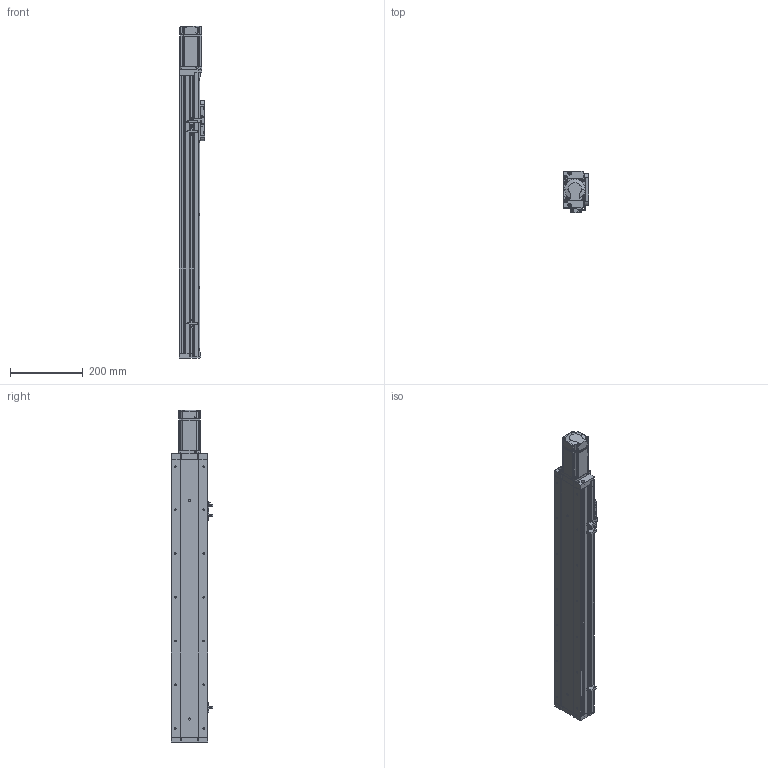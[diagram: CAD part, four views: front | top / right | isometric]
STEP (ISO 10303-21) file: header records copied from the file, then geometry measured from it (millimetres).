
FILE_DESCRIPTION (( 'STEP AP214' ), '1' );
FILE_NAME ('KSD100S-S550-MN-CR.STEP', '2019-09-02T09:19:50', ( '微软用户' ), ( '微软中国' ), 'SwSTEP 2.0', 'SolidWorks 2014', '' );
FILE_SCHEMA (( 'AUTOMOTIVE_DESIGN' ));
Length unit declared in the file: millimetre
Products named in the file (12): 100宽马达安装板全封闭不带电机座; 100宽端板全封闭; 100宽滚珠螺姆安装板1防护罩; 100宽滚珠螺姆安装板1; 100宽盖板压板不带电机座; 100宽盖板550行程不带电机座; 100宽侧板550行程不带电机座; 100宽底板全封闭550行程不带电机座; KSD100S-S550-MN-CR; MHMD042G1CA_2_03; U倰嫖萇EEㄜSX672; 感应片100宽全封闭
Assembly tree (15 placements, depth 2):
  KSD100S-S550-MN-CR
    100宽底板全封闭550行程不带电机座
    100宽侧板550行程不带电机座  x2
    100宽盖板550行程不带电机座
    100宽盖板压板不带电机座  x2
    100宽滚珠螺姆安装板1
    100宽滚珠螺姆安装板1防护罩
    100宽端板全封闭
    100宽马达安装板全封闭不带电机座
    感应片100宽全封闭
    U倰嫖萇EEㄜSX672  x3
    MHMD042G1CA_2_03
Bounding box: 70 x 113.7 x 910.5 mm (x, y, z)
Volume: 1588664.8 mm3; surface area: 707132.4 mm2
Topology: 14 solids, 15 shells, 1512 faces, 4234 edges, 2706 vertices
Faces by surface type: plane 656, cylinder 629, cone 209, bspline 18
Entity records: 51494 total; most frequent: CARTESIAN_POINT 8021, DIRECTION 7049, ORIENTED_EDGE 6564, EDGE_CURVE 3354, AXIS2_PLACEMENT_3D 2498, VERTEX_POINT 2224, VECTOR 2053, LINE 2053
